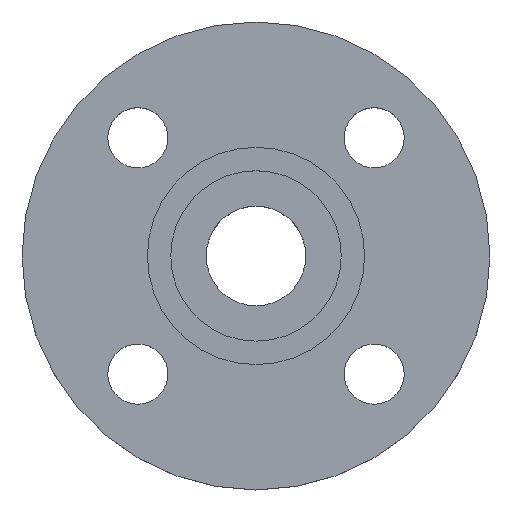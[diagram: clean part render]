
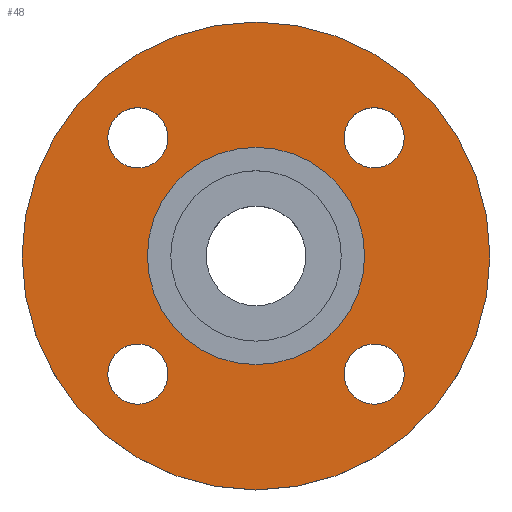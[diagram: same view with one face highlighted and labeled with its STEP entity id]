
A CAD part, top view. The second image highlights one B-rep face of the part: STEP entity #48.
In plain terms, the highlighted planar face has unit normal (0, 0, 1).
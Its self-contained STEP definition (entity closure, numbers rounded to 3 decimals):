
#3 = CIRCLE ( 'NONE', #466, 9. ) ;
#17 = DIRECTION ( 'NONE',  ( 1., 0., 0. ) ) ;
#18 = DIRECTION ( 'NONE',  ( 0., 0., -1. ) ) ;
#20 = DIRECTION ( 'NONE',  ( 0., 0., -1. ) ) ;
#34 = DIRECTION ( 'NONE',  ( 0., 0., -1. ) ) ;
#38 = CIRCLE ( 'NONE', #508, 9. ) ;
#45 = DIRECTION ( 'NONE',  ( 0., 0., -1. ) ) ;
#46 = DIRECTION ( 'NONE',  ( 0., 0., -1. ) ) ;
#48 = ADVANCED_FACE ( 'NONE', ( #520, #759, #211, #461, #702, #144 ), #406, .T. ) ;
#68 = DIRECTION ( 'NONE',  ( 0., 0., -1. ) ) ;
#78 = DIRECTION ( 'NONE',  ( 0., 0., 1. ) ) ;
#92 = EDGE_CURVE ( 'NONE', #240, #796, #447, .T. ) ;
#97 = DIRECTION ( 'NONE',  ( 0., 0., -1. ) ) ;
#109 = CARTESIAN_POINT ( 'NONE',  ( 26.355, -35.355, -4.5 ) ) ;
#113 = ORIENTED_EDGE ( 'NONE', *, *, #92, .F. ) ;
#114 = AXIS2_PLACEMENT_3D ( 'NONE', #647, #78, #340 ) ;
#116 = CARTESIAN_POINT ( 'NONE',  ( -26.355, -35.355, -4.5 ) ) ;
#120 = EDGE_LOOP ( 'NONE', ( #309, #192 ) ) ;
#134 = EDGE_CURVE ( 'NONE', #391, #352, #38, .T. ) ;
#144 = FACE_OUTER_BOUND ( 'NONE', #792, .T. ) ;
#160 = DIRECTION ( 'NONE',  ( -1., 0., 0. ) ) ;
#162 = DIRECTION ( 'NONE',  ( -1., 0., 0. ) ) ;
#164 = DIRECTION ( 'NONE',  ( 1., 0., 0. ) ) ;
#171 = ORIENTED_EDGE ( 'NONE', *, *, #512, .T. ) ;
#176 = EDGE_CURVE ( 'NONE', #801, #657, #323, .T. ) ;
#192 = ORIENTED_EDGE ( 'NONE', *, *, #204, .T. ) ;
#194 = EDGE_CURVE ( 'NONE', #749, #198, #635, .T. ) ;
#198 = VERTEX_POINT ( 'NONE', #708 ) ;
#204 = EDGE_CURVE ( 'NONE', #251, #735, #492, .T. ) ;
#206 = DIRECTION ( 'NONE',  ( 1., 0., 0. ) ) ;
#211 = FACE_BOUND ( 'NONE', #120, .T. ) ;
#225 = CARTESIAN_POINT ( 'NONE',  ( 70., 0., -4.5 ) ) ;
#240 = VERTEX_POINT ( 'NONE', #225 ) ;
#251 = VERTEX_POINT ( 'NONE', #354 ) ;
#255 = AXIS2_PLACEMENT_3D ( 'NONE', #476, #718, #164 ) ;
#260 = CIRCLE ( 'NONE', #706, 32.5 ) ;
#279 = DIRECTION ( 'NONE',  ( 1., 0., 0. ) ) ;
#281 = DIRECTION ( 'NONE',  ( 1., 0., 0. ) ) ;
#283 = AXIS2_PLACEMENT_3D ( 'NONE', #341, #585, #17 ) ;
#284 = CIRCLE ( 'NONE', #736, 9. ) ;
#293 = DIRECTION ( 'NONE',  ( 1., 0., 0. ) ) ;
#300 = CARTESIAN_POINT ( 'NONE',  ( 44.355, 35.355, -4.5 ) ) ;
#303 = VERTEX_POINT ( 'NONE', #482 ) ;
#304 = DIRECTION ( 'NONE',  ( 1., 0., 0. ) ) ;
#305 = DIRECTION ( 'NONE',  ( 1., 0., 0. ) ) ;
#309 = ORIENTED_EDGE ( 'NONE', *, *, #656, .T. ) ;
#310 = EDGE_LOOP ( 'NONE', ( #347, #560 ) ) ;
#318 = EDGE_LOOP ( 'NONE', ( #449, #417 ) ) ;
#323 = CIRCLE ( 'NONE', #434, 9. ) ;
#327 = DIRECTION ( 'NONE',  ( -1., 0., 0. ) ) ;
#328 = AXIS2_PLACEMENT_3D ( 'NONE', #475, #716, #162 ) ;
#336 = AXIS2_PLACEMENT_3D ( 'NONE', #613, #46, #305 ) ;
#339 = EDGE_CURVE ( 'NONE', #352, #391, #689, .T. ) ;
#340 = DIRECTION ( 'NONE',  ( 1., 0., 0. ) ) ;
#341 = CARTESIAN_POINT ( 'NONE',  ( 35.355, 35.355, -4.5 ) ) ;
#347 = ORIENTED_EDGE ( 'NONE', *, *, #194, .T. ) ;
#352 = VERTEX_POINT ( 'NONE', #116 ) ;
#354 = CARTESIAN_POINT ( 'NONE',  ( -44.355, 35.355, -4.5 ) ) ;
#356 = DIRECTION ( 'NONE',  ( -1., 0., 0. ) ) ;
#357 = AXIS2_PLACEMENT_3D ( 'NONE', #663, #97, #356 ) ;
#361 = CARTESIAN_POINT ( 'NONE',  ( -26.355, 35.355, -4.5 ) ) ;
#379 = EDGE_LOOP ( 'NONE', ( #171, #501 ) ) ;
#391 = VERTEX_POINT ( 'NONE', #454 ) ;
#397 = EDGE_CURVE ( 'NONE', #500, #303, #260, .T. ) ;
#402 = EDGE_CURVE ( 'NONE', #198, #749, #3, .T. ) ;
#406 = PLANE ( 'NONE',  #114 ) ;
#417 = ORIENTED_EDGE ( 'NONE', *, *, #134, .T. ) ;
#421 = CARTESIAN_POINT ( 'NONE',  ( 44.355, -35.355, -4.5 ) ) ;
#434 = AXIS2_PLACEMENT_3D ( 'NONE', #612, #45, #304 ) ;
#445 = ORIENTED_EDGE ( 'NONE', *, *, #397, .T. ) ;
#447 = CIRCLE ( 'NONE', #545, 70. ) ;
#449 = ORIENTED_EDGE ( 'NONE', *, *, #339, .T. ) ;
#454 = CARTESIAN_POINT ( 'NONE',  ( -44.355, -35.355, -4.5 ) ) ;
#461 = FACE_BOUND ( 'NONE', #310, .T. ) ;
#466 = AXIS2_PLACEMENT_3D ( 'NONE', #516, #755, #206 ) ;
#472 = CARTESIAN_POINT ( 'NONE',  ( 0., 0., -4.5 ) ) ;
#475 = CARTESIAN_POINT ( 'NONE',  ( 0., 0., -4.5 ) ) ;
#476 = CARTESIAN_POINT ( 'NONE',  ( -35.355, 35.355, -4.5 ) ) ;
#482 = CARTESIAN_POINT ( 'NONE',  ( -32.5, 0., -4.5 ) ) ;
#488 = EDGE_LOOP ( 'NONE', ( #576, #445 ) ) ;
#492 = CIRCLE ( 'NONE', #594, 9. ) ;
#500 = VERTEX_POINT ( 'NONE', #583 ) ;
#501 = ORIENTED_EDGE ( 'NONE', *, *, #176, .T. ) ;
#508 = AXIS2_PLACEMENT_3D ( 'NONE', #602, #34, #293 ) ;
#512 = EDGE_CURVE ( 'NONE', #657, #801, #284, .T. ) ;
#516 = CARTESIAN_POINT ( 'NONE',  ( 35.355, 35.355, -4.5 ) ) ;
#520 = FACE_BOUND ( 'NONE', #379, .T. ) ;
#545 = AXIS2_PLACEMENT_3D ( 'NONE', #472, #714, #160 ) ;
#560 = ORIENTED_EDGE ( 'NONE', *, *, #402, .T. ) ;
#571 = EDGE_CURVE ( 'NONE', #796, #240, #679, .T. ) ;
#576 = ORIENTED_EDGE ( 'NONE', *, *, #662, .T. ) ;
#583 = CARTESIAN_POINT ( 'NONE',  ( 32.5, 0., -4.5 ) ) ;
#585 = DIRECTION ( 'NONE',  ( 0., 0., -1. ) ) ;
#586 = CARTESIAN_POINT ( 'NONE',  ( 35.355, -35.355, -4.5 ) ) ;
#589 = CARTESIAN_POINT ( 'NONE',  ( -35.355, 35.355, -4.5 ) ) ;
#594 = AXIS2_PLACEMENT_3D ( 'NONE', #589, #20, #281 ) ;
#600 = CIRCLE ( 'NONE', #255, 9. ) ;
#602 = CARTESIAN_POINT ( 'NONE',  ( -35.355, -35.355, -4.5 ) ) ;
#612 = CARTESIAN_POINT ( 'NONE',  ( 35.355, -35.355, -4.5 ) ) ;
#613 = CARTESIAN_POINT ( 'NONE',  ( -35.355, -35.355, -4.5 ) ) ;
#631 = ORIENTED_EDGE ( 'NONE', *, *, #571, .F. ) ;
#635 = CIRCLE ( 'NONE', #283, 9. ) ;
#637 = CARTESIAN_POINT ( 'NONE',  ( 0., 0., -4.5 ) ) ;
#647 = CARTESIAN_POINT ( 'NONE',  ( 32.5, 0., -4.5 ) ) ;
#656 = EDGE_CURVE ( 'NONE', #735, #251, #600, .T. ) ;
#657 = VERTEX_POINT ( 'NONE', #421 ) ;
#662 = EDGE_CURVE ( 'NONE', #303, #500, #700, .T. ) ;
#663 = CARTESIAN_POINT ( 'NONE',  ( 0., 0., -4.5 ) ) ;
#672 = CARTESIAN_POINT ( 'NONE',  ( -70., 0., -4.5 ) ) ;
#679 = CIRCLE ( 'NONE', #328, 70. ) ;
#689 = CIRCLE ( 'NONE', #336, 9. ) ;
#700 = CIRCLE ( 'NONE', #357, 32.5 ) ;
#702 = FACE_BOUND ( 'NONE', #488, .T. ) ;
#706 = AXIS2_PLACEMENT_3D ( 'NONE', #637, #68, #327 ) ;
#708 = CARTESIAN_POINT ( 'NONE',  ( 26.355, 35.355, -4.5 ) ) ;
#714 = DIRECTION ( 'NONE',  ( 0., 0., -1. ) ) ;
#716 = DIRECTION ( 'NONE',  ( 0., 0., -1. ) ) ;
#718 = DIRECTION ( 'NONE',  ( 0., 0., -1. ) ) ;
#735 = VERTEX_POINT ( 'NONE', #361 ) ;
#736 = AXIS2_PLACEMENT_3D ( 'NONE', #586, #18, #279 ) ;
#749 = VERTEX_POINT ( 'NONE', #300 ) ;
#755 = DIRECTION ( 'NONE',  ( 0., 0., -1. ) ) ;
#759 = FACE_BOUND ( 'NONE', #318, .T. ) ;
#792 = EDGE_LOOP ( 'NONE', ( #113, #631 ) ) ;
#796 = VERTEX_POINT ( 'NONE', #672 ) ;
#801 = VERTEX_POINT ( 'NONE', #109 ) ;
